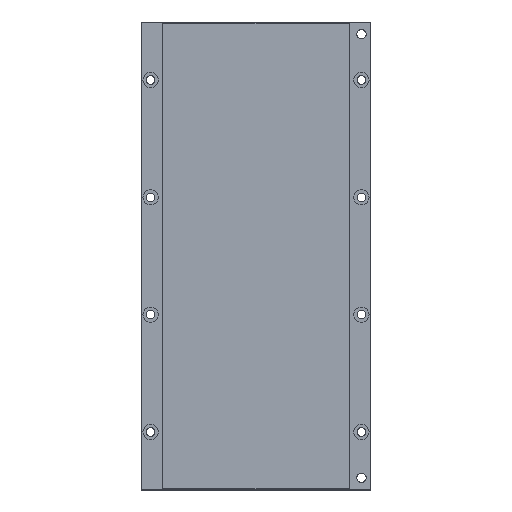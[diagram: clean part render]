
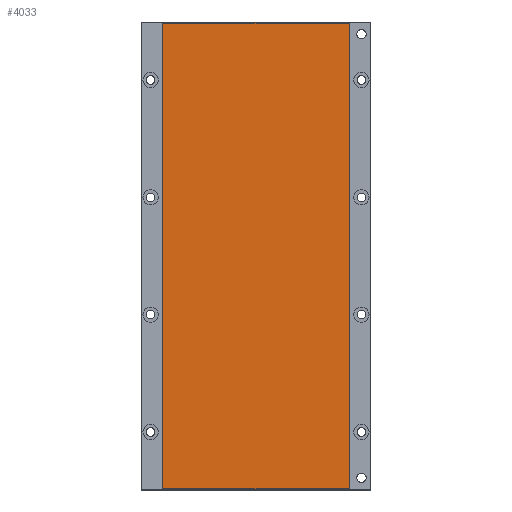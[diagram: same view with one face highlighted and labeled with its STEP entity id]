
A CAD part, top view. The second image highlights one B-rep face of the part: STEP entity #4033.
In plain terms, the highlighted planar face has unit normal (0, 0, 1).
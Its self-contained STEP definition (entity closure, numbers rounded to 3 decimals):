
#1386=DIRECTION('',(-1.,0.,0.));
#1387=VECTOR('',#1386,101.5);
#1388=CARTESIAN_POINT('',(50.75,127.,8.25));
#1389=LINE('',#1388,#1387);
#1406=DIRECTION('',(-1.,0.,0.));
#1407=VECTOR('',#1406,101.5);
#1408=CARTESIAN_POINT('',(50.75,-127.,8.25));
#1409=LINE('',#1408,#1407);
#1410=DIRECTION('',(0.,1.,0.));
#1411=VECTOR('',#1410,254.);
#1412=CARTESIAN_POINT('',(50.75,-127.,8.25));
#1413=LINE('',#1412,#1411);
#1414=DIRECTION('',(0.,1.,0.));
#1415=VECTOR('',#1414,254.);
#1416=CARTESIAN_POINT('',(-50.75,-127.,8.25));
#1417=LINE('',#1416,#1415);
#1850=CARTESIAN_POINT('',(50.75,-127.,8.25));
#1851=VERTEX_POINT('',#1850);
#1856=CARTESIAN_POINT('',(-50.75,-127.,8.25));
#1857=VERTEX_POINT('',#1856);
#1858=CARTESIAN_POINT('',(50.75,127.,8.25));
#1859=VERTEX_POINT('',#1858);
#1864=CARTESIAN_POINT('',(-50.75,127.,8.25));
#1865=VERTEX_POINT('',#1864);
#4020=CARTESIAN_POINT('',(0.,0.,8.25));
#4021=DIRECTION('',(0.,0.,1.));
#4022=DIRECTION('',(0.,-1.,0.));
#4023=AXIS2_PLACEMENT_3D('',#4020,#4021,#4022);
#4024=PLANE('',#4023);
#4025=ORIENTED_EDGE('',*,*,#3962,.T.);
#4027=ORIENTED_EDGE('',*,*,#4026,.T.);
#4028=ORIENTED_EDGE('',*,*,#4005,.F.);
#4030=ORIENTED_EDGE('',*,*,#4029,.F.);
#4031=EDGE_LOOP('',(#4025,#4027,#4028,#4030));
#4032=FACE_OUTER_BOUND('',#4031,.F.);
#4033=ADVANCED_FACE('',(#4032),#4024,.T.);
#3962=EDGE_CURVE('',#1851,#1857,#1409,.T.);
#4005=EDGE_CURVE('',#1859,#1865,#1389,.T.);
#4026=EDGE_CURVE('',#1857,#1865,#1417,.T.);
#4029=EDGE_CURVE('',#1851,#1859,#1413,.T.);
